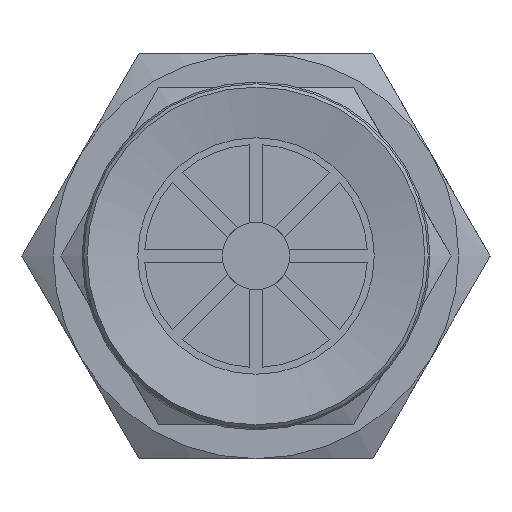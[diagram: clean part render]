
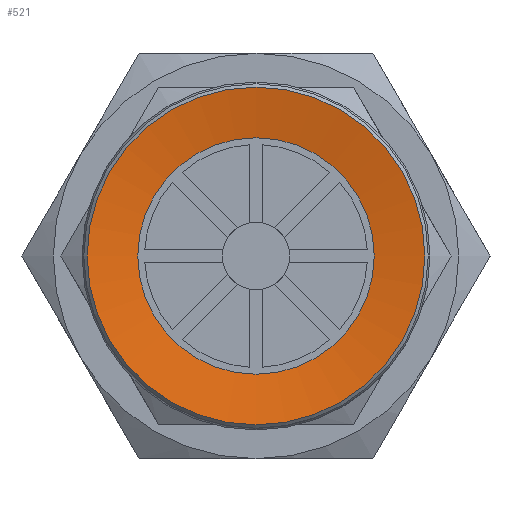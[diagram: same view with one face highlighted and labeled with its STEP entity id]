
A CAD part, front view. The second image highlights one B-rep face of the part: STEP entity #521.
In plain terms, the highlighted conical face has half-angle 80 degrees and reference radius 5 mm.
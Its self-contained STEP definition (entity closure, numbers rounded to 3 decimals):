
#521=ADVANCED_FACE('',(#832,#833),#834,.F.);
#832=FACE_BOUND('',#1171,.T.);
#833=FACE_OUTER_BOUND('',#1172,.T.);
#834=CONICAL_SURFACE('',#1173,5.0,1.396);
#1171=EDGE_LOOP('',(#2067));
#1172=EDGE_LOOP('',(#2068));
#1173=AXIS2_PLACEMENT_3D('',#2069,#2070,#2071);
#2067=ORIENTED_EDGE('',*,*,#2446,.T.);
#2068=ORIENTED_EDGE('',*,*,#2447,.F.);
#2069=CARTESIAN_POINT('',(0.0,0.,0.));
#2070=DIRECTION('',(0.0,0.,-1.0));
#2071=DIRECTION('',(0.0,1.0,0.));
#2446=EDGE_CURVE('',#2903,#2903,#2904,.T.);
#2447=EDGE_CURVE('',#2905,#2905,#2906,.T.);
#2903=VERTEX_POINT('',#3818);
#2904=CIRCLE('',#3819,3.5);
#2905=VERTEX_POINT('',#3820);
#2906=CIRCLE('',#3821,5.0);
#3818=CARTESIAN_POINT('',(0.0,-3.5,0.264));
#3819=AXIS2_PLACEMENT_3D('',#4264,#4265,#4266);
#3820=CARTESIAN_POINT('',(0.0,-5.0,0.));
#3821=AXIS2_PLACEMENT_3D('',#4267,#4268,#4269);
#4264=CARTESIAN_POINT('',(0.0,0.,0.264));
#4265=DIRECTION('',(0.0,0.,1.0));
#4266=DIRECTION('',(0.0,-1.0,0.));
#4267=CARTESIAN_POINT('',(0.0,0.,0.));
#4268=DIRECTION('',(0.0,0.,1.0));
#4269=DIRECTION('',(0.0,-1.0,0.));
